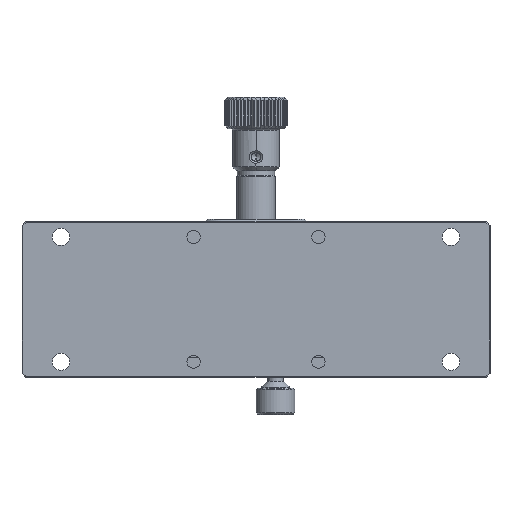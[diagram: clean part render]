
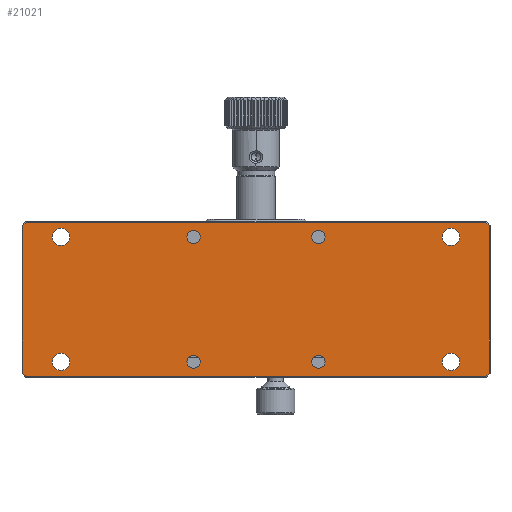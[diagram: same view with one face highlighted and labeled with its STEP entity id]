
A CAD part, front view. The second image highlights one B-rep face of the part: STEP entity #21021.
In plain terms, the highlighted planar face has unit normal (0, -1, 0).
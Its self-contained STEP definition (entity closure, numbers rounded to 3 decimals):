
#551=DIRECTION('',(0.707,0.,-0.707));
#552=VECTOR('',#551,1.249);
#553=CARTESIAN_POINT('',(-19.8,-14.5,-58.917));
#554=LINE('',#553,#552);
#555=DIRECTION('',(0.,0.,-1.));
#556=VECTOR('',#555,117.834);
#557=CARTESIAN_POINT('',(-19.8,-14.5,58.917));
#558=LINE('',#557,#556);
#559=DIRECTION('',(-0.707,0.,-0.707));
#560=VECTOR('',#559,1.249);
#561=CARTESIAN_POINT('',(-18.917,-14.5,59.8));
#562=LINE('',#561,#560);
#563=DIRECTION('',(-1.,0.,0.));
#564=VECTOR('',#563,37.834);
#565=CARTESIAN_POINT('',(18.917,-14.5,59.8));
#566=LINE('',#565,#564);
#567=DIRECTION('',(-0.707,0.,0.707));
#568=VECTOR('',#567,1.249);
#569=CARTESIAN_POINT('',(19.8,-14.5,58.917));
#570=LINE('',#569,#568);
#571=DIRECTION('',(0.,0.,1.));
#572=VECTOR('',#571,117.834);
#573=CARTESIAN_POINT('',(19.8,-14.5,-58.917));
#574=LINE('',#573,#572);
#575=DIRECTION('',(0.707,0.,0.707));
#576=VECTOR('',#575,1.249);
#577=CARTESIAN_POINT('',(18.917,-14.5,-59.8));
#578=LINE('',#577,#576);
#579=DIRECTION('',(1.,0.,0.));
#580=VECTOR('',#579,37.834);
#581=CARTESIAN_POINT('',(-18.917,-14.5,-59.8));
#582=LINE('',#581,#580);
#583=CARTESIAN_POINT('',(-16.,-14.5,-50.));
#584=DIRECTION('',(0.,1.,0.));
#585=DIRECTION('',(1.,0.,0.));
#586=AXIS2_PLACEMENT_3D('',#583,#584,#585);
#588=CARTESIAN_POINT('',(-16.,-14.5,-50.));
#589=DIRECTION('',(0.,1.,0.));
#590=DIRECTION('',(-1.,0.,0.));
#591=AXIS2_PLACEMENT_3D('',#588,#589,#590);
#593=CARTESIAN_POINT('',(16.,-14.5,-50.));
#594=DIRECTION('',(0.,1.,0.));
#595=DIRECTION('',(1.,0.,0.));
#596=AXIS2_PLACEMENT_3D('',#593,#594,#595);
#598=CARTESIAN_POINT('',(16.,-14.5,-50.));
#599=DIRECTION('',(0.,1.,0.));
#600=DIRECTION('',(-1.,0.,0.));
#601=AXIS2_PLACEMENT_3D('',#598,#599,#600);
#603=CARTESIAN_POINT('',(-16.,-14.5,50.));
#604=DIRECTION('',(0.,1.,0.));
#605=DIRECTION('',(1.,0.,0.));
#606=AXIS2_PLACEMENT_3D('',#603,#604,#605);
#608=CARTESIAN_POINT('',(-16.,-14.5,50.));
#609=DIRECTION('',(0.,1.,0.));
#610=DIRECTION('',(-1.,0.,0.));
#611=AXIS2_PLACEMENT_3D('',#608,#609,#610);
#613=CARTESIAN_POINT('',(16.,-14.5,50.));
#614=DIRECTION('',(0.,1.,0.));
#615=DIRECTION('',(1.,0.,0.));
#616=AXIS2_PLACEMENT_3D('',#613,#614,#615);
#618=CARTESIAN_POINT('',(16.,-14.5,50.));
#619=DIRECTION('',(0.,1.,0.));
#620=DIRECTION('',(-1.,0.,0.));
#621=AXIS2_PLACEMENT_3D('',#618,#619,#620);
#623=CARTESIAN_POINT('',(-16.,-14.5,-16.));
#624=DIRECTION('',(0.,1.,0.));
#625=DIRECTION('',(1.,0.,0.));
#626=AXIS2_PLACEMENT_3D('',#623,#624,#625);
#628=CARTESIAN_POINT('',(-16.,-14.5,-16.));
#629=DIRECTION('',(0.,1.,0.));
#630=DIRECTION('',(-1.,0.,0.));
#631=AXIS2_PLACEMENT_3D('',#628,#629,#630);
#633=CARTESIAN_POINT('',(-16.,-14.5,16.));
#634=DIRECTION('',(0.,1.,0.));
#635=DIRECTION('',(1.,0.,0.));
#636=AXIS2_PLACEMENT_3D('',#633,#634,#635);
#638=CARTESIAN_POINT('',(-16.,-14.5,16.));
#639=DIRECTION('',(0.,1.,0.));
#640=DIRECTION('',(-1.,0.,0.));
#641=AXIS2_PLACEMENT_3D('',#638,#639,#640);
#643=CARTESIAN_POINT('',(16.,-14.5,-16.));
#644=DIRECTION('',(0.,1.,0.));
#645=DIRECTION('',(1.,0.,0.));
#646=AXIS2_PLACEMENT_3D('',#643,#644,#645);
#648=CARTESIAN_POINT('',(16.,-14.5,-16.));
#649=DIRECTION('',(0.,1.,0.));
#650=DIRECTION('',(-1.,0.,0.));
#651=AXIS2_PLACEMENT_3D('',#648,#649,#650);
#653=CARTESIAN_POINT('',(16.,-14.5,16.));
#654=DIRECTION('',(0.,1.,0.));
#655=DIRECTION('',(1.,0.,0.));
#656=AXIS2_PLACEMENT_3D('',#653,#654,#655);
#658=CARTESIAN_POINT('',(16.,-14.5,16.));
#659=DIRECTION('',(0.,1.,0.));
#660=DIRECTION('',(-1.,0.,0.));
#661=AXIS2_PLACEMENT_3D('',#658,#659,#660);
#15146=CARTESIAN_POINT('',(-19.8,-14.5,-58.917));
#15147=CARTESIAN_POINT('',(-18.917,-14.5,-59.8));
#15148=VERTEX_POINT('',#15146);
#15149=VERTEX_POINT('',#15147);
#15156=CARTESIAN_POINT('',(18.917,-14.5,-59.8));
#15157=VERTEX_POINT('',#15156);
#15158=CARTESIAN_POINT('',(19.8,-14.5,-58.917));
#15159=VERTEX_POINT('',#15158);
#15164=CARTESIAN_POINT('',(19.8,-14.5,58.917));
#15165=VERTEX_POINT('',#15164);
#15166=CARTESIAN_POINT('',(18.917,-14.5,59.8));
#15167=VERTEX_POINT('',#15166);
#15172=CARTESIAN_POINT('',(-18.917,-14.5,59.8));
#15173=VERTEX_POINT('',#15172);
#15176=CARTESIAN_POINT('',(-19.8,-14.5,58.917));
#15177=VERTEX_POINT('',#15176);
#16566=CARTESIAN_POINT('',(-13.8,-14.5,-50.));
#16567=CARTESIAN_POINT('',(-18.2,-14.5,-50.));
#16568=VERTEX_POINT('',#16566);
#16569=VERTEX_POINT('',#16567);
#16570=CARTESIAN_POINT('',(18.2,-14.5,-50.));
#16571=CARTESIAN_POINT('',(13.8,-14.5,-50.));
#16572=VERTEX_POINT('',#16570);
#16573=VERTEX_POINT('',#16571);
#16574=CARTESIAN_POINT('',(-13.8,-14.5,50.));
#16575=CARTESIAN_POINT('',(-18.2,-14.5,50.));
#16576=VERTEX_POINT('',#16574);
#16577=VERTEX_POINT('',#16575);
#16578=CARTESIAN_POINT('',(18.2,-14.5,50.));
#16579=CARTESIAN_POINT('',(13.8,-14.5,50.));
#16580=VERTEX_POINT('',#16578);
#16581=VERTEX_POINT('',#16579);
#20090=CARTESIAN_POINT('',(-14.3,-14.5,-16.));
#20091=CARTESIAN_POINT('',(-17.7,-14.5,-16.));
#20092=VERTEX_POINT('',#20090);
#20093=VERTEX_POINT('',#20091);
#20094=CARTESIAN_POINT('',(-14.3,-14.5,16.));
#20095=CARTESIAN_POINT('',(-17.7,-14.5,16.));
#20096=VERTEX_POINT('',#20094);
#20097=VERTEX_POINT('',#20095);
#20098=CARTESIAN_POINT('',(17.7,-14.5,-16.));
#20099=CARTESIAN_POINT('',(14.3,-14.5,-16.));
#20100=VERTEX_POINT('',#20098);
#20101=VERTEX_POINT('',#20099);
#20102=CARTESIAN_POINT('',(17.7,-14.5,16.));
#20103=CARTESIAN_POINT('',(14.3,-14.5,16.));
#20104=VERTEX_POINT('',#20102);
#20105=VERTEX_POINT('',#20103);
#20951=CARTESIAN_POINT('',(0.,-14.5,0.));
#20952=DIRECTION('',(0.,1.,0.));
#20953=DIRECTION('',(1.,0.,0.));
#20954=AXIS2_PLACEMENT_3D('',#20951,#20952,#20953);
#20955=PLANE('',#20954);
#20957=ORIENTED_EDGE('',*,*,#20956,.F.);
#20959=ORIENTED_EDGE('',*,*,#20958,.F.);
#20961=ORIENTED_EDGE('',*,*,#20960,.F.);
#20963=ORIENTED_EDGE('',*,*,#20962,.F.);
#20965=ORIENTED_EDGE('',*,*,#20964,.F.);
#20967=ORIENTED_EDGE('',*,*,#20966,.F.);
#20968=ORIENTED_EDGE('',*,*,#20941,.F.);
#20970=ORIENTED_EDGE('',*,*,#20969,.F.);
#20971=EDGE_LOOP('',(#20957,#20959,#20961,#20963,#20965,#20967,#20968,#20970));
#20972=FACE_OUTER_BOUND('',#20971,.F.);
#20974=ORIENTED_EDGE('',*,*,#20973,.F.);
#20976=ORIENTED_EDGE('',*,*,#20975,.F.);
#20977=EDGE_LOOP('',(#20974,#20976));
#20978=FACE_BOUND('',#20977,.F.);
#20980=ORIENTED_EDGE('',*,*,#20979,.F.);
#20982=ORIENTED_EDGE('',*,*,#20981,.F.);
#20983=EDGE_LOOP('',(#20980,#20982));
#20984=FACE_BOUND('',#20983,.F.);
#20986=ORIENTED_EDGE('',*,*,#20985,.F.);
#20988=ORIENTED_EDGE('',*,*,#20987,.F.);
#20989=EDGE_LOOP('',(#20986,#20988));
#20990=FACE_BOUND('',#20989,.F.);
#20992=ORIENTED_EDGE('',*,*,#20991,.F.);
#20994=ORIENTED_EDGE('',*,*,#20993,.F.);
#20995=EDGE_LOOP('',(#20992,#20994));
#20996=FACE_BOUND('',#20995,.F.);
#20998=ORIENTED_EDGE('',*,*,#20997,.F.);
#21000=ORIENTED_EDGE('',*,*,#20999,.F.);
#21001=EDGE_LOOP('',(#20998,#21000));
#21002=FACE_BOUND('',#21001,.F.);
#21004=ORIENTED_EDGE('',*,*,#21003,.F.);
#21006=ORIENTED_EDGE('',*,*,#21005,.F.);
#21007=EDGE_LOOP('',(#21004,#21006));
#21008=FACE_BOUND('',#21007,.F.);
#21010=ORIENTED_EDGE('',*,*,#21009,.F.);
#21012=ORIENTED_EDGE('',*,*,#21011,.F.);
#21013=EDGE_LOOP('',(#21010,#21012));
#21014=FACE_BOUND('',#21013,.F.);
#21016=ORIENTED_EDGE('',*,*,#21015,.F.);
#21018=ORIENTED_EDGE('',*,*,#21017,.F.);
#21019=EDGE_LOOP('',(#21016,#21018));
#21020=FACE_BOUND('',#21019,.F.);
#21021=ADVANCED_FACE('',(#20972,#20978,#20984,#20990,#20996,#21002,#21008,
#21014,#21020),#20955,.F.);
#587=CIRCLE('',#586,2.2);
#592=CIRCLE('',#591,2.2);
#597=CIRCLE('',#596,2.2);
#602=CIRCLE('',#601,2.2);
#607=CIRCLE('',#606,2.2);
#612=CIRCLE('',#611,2.2);
#617=CIRCLE('',#616,2.2);
#622=CIRCLE('',#621,2.2);
#627=CIRCLE('',#626,1.7);
#632=CIRCLE('',#631,1.7);
#637=CIRCLE('',#636,1.7);
#642=CIRCLE('',#641,1.7);
#647=CIRCLE('',#646,1.7);
#652=CIRCLE('',#651,1.7);
#657=CIRCLE('',#656,1.7);
#662=CIRCLE('',#661,1.7);
#20941=EDGE_CURVE('',#15157,#15159,#578,.T.);
#20956=EDGE_CURVE('',#15148,#15149,#554,.T.);
#20958=EDGE_CURVE('',#15177,#15148,#558,.T.);
#20960=EDGE_CURVE('',#15173,#15177,#562,.T.);
#20962=EDGE_CURVE('',#15167,#15173,#566,.T.);
#20964=EDGE_CURVE('',#15165,#15167,#570,.T.);
#20966=EDGE_CURVE('',#15159,#15165,#574,.T.);
#20969=EDGE_CURVE('',#15149,#15157,#582,.T.);
#20973=EDGE_CURVE('',#16568,#16569,#587,.T.);
#20975=EDGE_CURVE('',#16569,#16568,#592,.T.);
#20979=EDGE_CURVE('',#16572,#16573,#597,.T.);
#20981=EDGE_CURVE('',#16573,#16572,#602,.T.);
#20985=EDGE_CURVE('',#16576,#16577,#607,.T.);
#20987=EDGE_CURVE('',#16577,#16576,#612,.T.);
#20991=EDGE_CURVE('',#16580,#16581,#617,.T.);
#20993=EDGE_CURVE('',#16581,#16580,#622,.T.);
#20997=EDGE_CURVE('',#20092,#20093,#627,.T.);
#20999=EDGE_CURVE('',#20093,#20092,#632,.T.);
#21003=EDGE_CURVE('',#20096,#20097,#637,.T.);
#21005=EDGE_CURVE('',#20097,#20096,#642,.T.);
#21009=EDGE_CURVE('',#20100,#20101,#647,.T.);
#21011=EDGE_CURVE('',#20101,#20100,#652,.T.);
#21015=EDGE_CURVE('',#20104,#20105,#657,.T.);
#21017=EDGE_CURVE('',#20105,#20104,#662,.T.);
